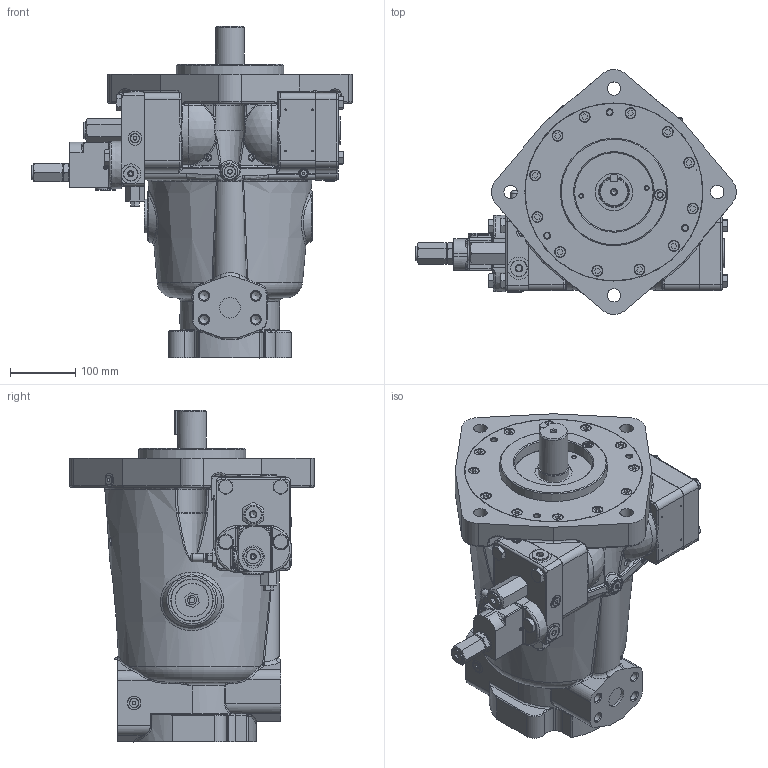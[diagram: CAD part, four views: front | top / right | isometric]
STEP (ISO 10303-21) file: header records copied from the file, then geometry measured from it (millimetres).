
FILE_DESCRIPTION(/* description */ (''),/* implementation_level */ '2;1');
FILE_NAME(/* name */ 'G:\Cadusers\Miller\3D\P12Q2R5DK1000 solid.stp',/* time_stamp */ '2016-01-22T07:48:53-05:00',/* author */ ('cma4859'),/* organization */ (''),/* preprocessor_version */ 'ST-DEVELOPER v15.2',/* originating_system */ 'Autodesk Inventor 2014',/* authorisation */ '');
FILE_SCHEMA (('AUTOMOTIVE_DESIGN { 1 0 10303 214 3 1 1 }'));
Products named in the file (1): P12Q2R5DK1000 solid
Bounding box: 492.41 x 375.88 x 510.03 mm (x, y, z)
Volume: 24192891.3 mm3; surface area: 1079733 mm2
Topology: 58 solids, 58 shells, 1944 faces, 4439 edges, 2686 vertices
Faces by surface type: plane 759, cylinder 424, cone 300, bspline 283, torus 160, sphere 18
Full cylindrical faces by diameter (mm): 1.5 x2, 2.184 x4, 2.507 x1, 3.962 x2, 4.78 x2, 5.563 x2, 6 x6, 6.35 x5, 6.782 x1, 6.985 x1, 7.112 x1, 7.295 x1, 7.31 x1, 7.798 x1, 7.938 x4, 8.509 x3, 9.25 x2, 9.52 x2, 9.6 x4, 10.16 x12, 10.319 x12, 11.1 x4, 11.113 x8, 11.852 x4, 12 x8, 12.497 x6, 12.5 x1, 13.368 x1, 13.494 x8, 13.7 x2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
Entity records: 63556 total; most frequent: CARTESIAN_POINT 23965, DIRECTION 7960, ORIENTED_EDGE 7708, EDGE_CURVE 3854, AXIS2_PLACEMENT_3D 3321, EDGE_LOOP 2594, VERTEX_POINT 2594, FACE_OUTER_BOUND 1943
